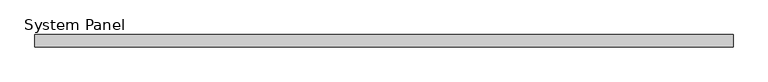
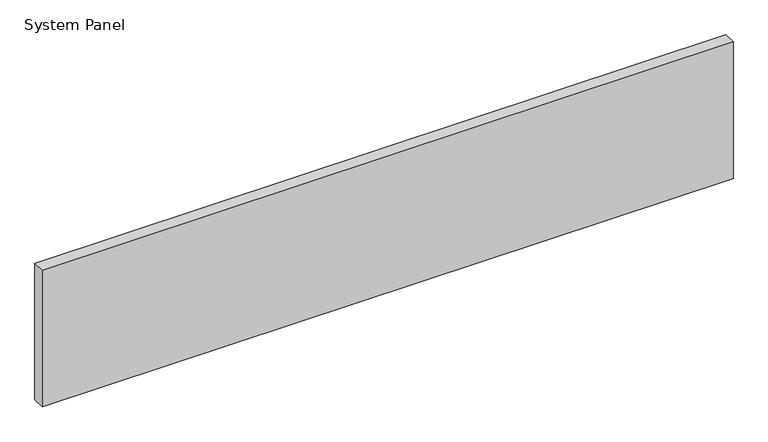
"""IFC4 building model written with IfcOpenShell, lengths in millimetres: plate geometry, System Panel : Glazed - ACMP (AL-1)."""

from ifc_helpers import new_model, si_unit, origin, origin_with_axes, place, context, project, spatial, polyline, outline, extrude, source, transform, mapped, element, save


def system_panel_795e7777(model_context):
    return source(origin(), model_context, "Body", "SweptSolid", [
        extrude(outline(polyline([(714.375, 0.0), (-714.375, 0.0), (-714.375, 25.4), (714.375, 25.4), (714.375, 0.0)])), origin_with_axes(), (0.0, 0.0, 1.0), 298.45),
    ])


if __name__ == "__main__":
    model = new_model("IFC4")
    model_context = context("Model", 3, world=origin())
    ifc_project = project(units=[si_unit("LENGTHUNIT", "METRE", prefix="MILLI")], contexts=[model_context])
    site = spatial("IfcSite", under=ifc_project)
    building = spatial("IfcBuilding", under=site)
    placement = place(None, origin())
    system_panel_shape = system_panel_795e7777(model_context)
    element("IfcPlate", 1, ObjectType="System Panel : Glazed - ACMP (AL-1)", at=placement, inside=building, context=model_context, shape_type="MappedRepresentation", body=[
        mapped(system_panel_shape, transform((0.0, 0.0, 0.0), x_axis=(1.0, 0.0, 0.0), y_axis=(0.0, 1.0, 0.0), z_axis=(0.0, 0.0, 1.0))),
    ])
    save(model, "model.ifc")
